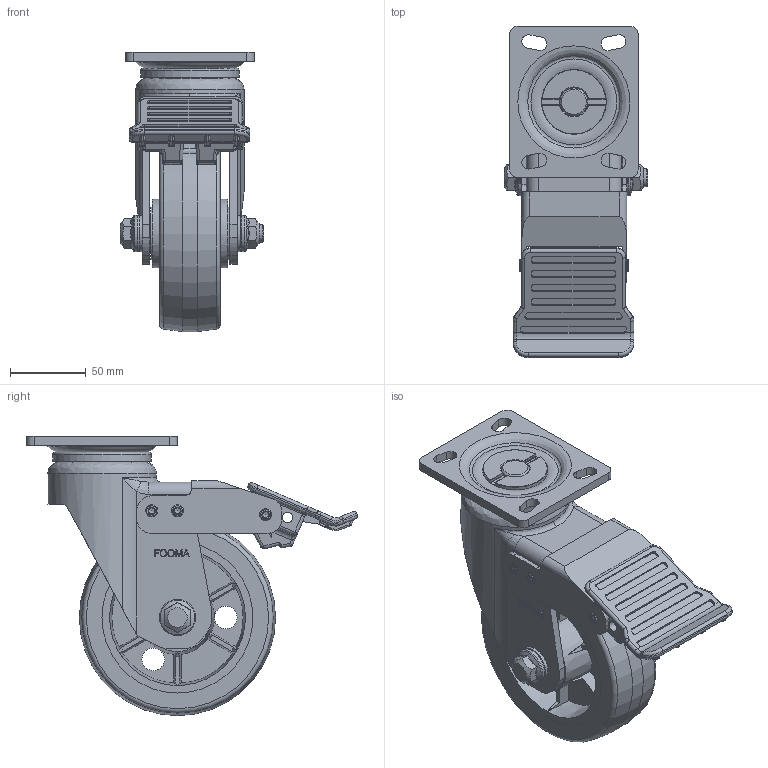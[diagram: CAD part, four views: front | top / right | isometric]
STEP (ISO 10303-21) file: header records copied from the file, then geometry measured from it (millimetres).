
FILE_DESCRIPTION((''),'2;1');
FILE_NAME('C:\Documents and Settings\Administrator\바탕 화면\3D STEP\PH-SERIES\PH-130\PH-130B-SF.stp','2010-12-27T14:45:19',('Administrator'),(''),'Autodesk Inventor 2009','Autodesk Inventor 2009','');
FILE_SCHEMA(('AUTOMOTIVE_DESIGN { 1 0 10303 214 1 1 1 1 }'));
Length unit declared in the file: millimetre
Products named in the file (1): PH-130B-SF
Bounding box: 94.8 x 219.27 x 184.98 mm (x, y, z)
Volume: 669976.6 mm3; surface area: 201136.2 mm2
Topology: 7 solids, 7 shells, 1231 faces, 3455 edges, 2226 vertices
Faces by surface type: plane 452, cylinder 349, bspline 262, torus 74, cone 74, sphere 20
Full cylindrical faces by diameter (mm): 3 x2, 4 x6, 6 x3, 6.1 x6, 6.5 x2, 7 x2, 8 x6, 12 x1, 15 x3, 18.5 x2, 21.5 x1, 22 x1, 24 x4, 29.9 x1, 30 x2, 30.5 x2, 35 x2, 35.02 x2, 42.8 x1, 44 x2, 61 x1, 62 x1, 63.14 x1, 65.14 x1, 72 x1, 130 x1
Entity records: 45479 total; most frequent: CARTESIAN_POINT 15797, ORIENTED_EDGE 6414, DIRECTION 5750, EDGE_CURVE 3207, AXIS2_PLACEMENT_3D 2144, VERTEX_POINT 2144, EDGE_LOOP 1463, VECTOR 1462
